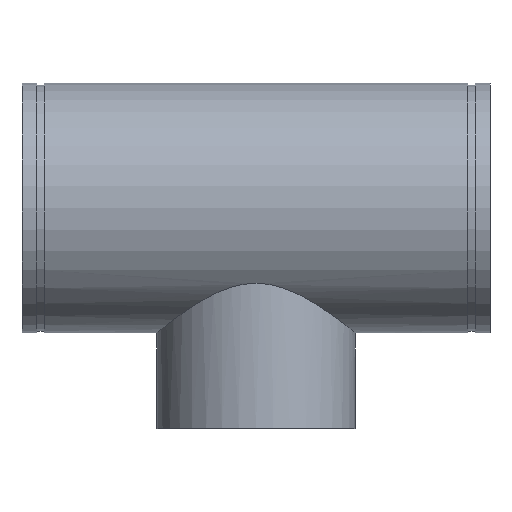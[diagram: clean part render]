
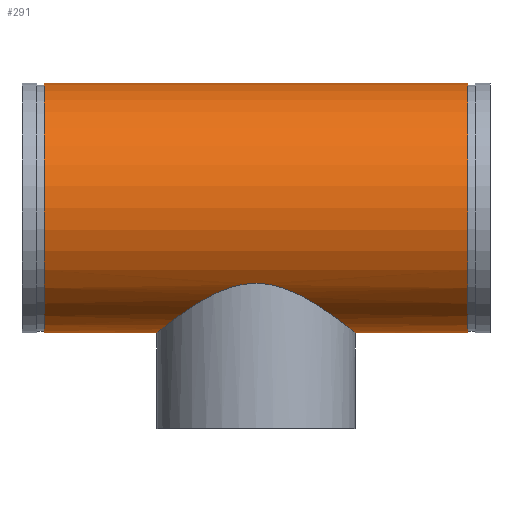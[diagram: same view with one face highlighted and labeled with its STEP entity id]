
A CAD part, top view. The second image highlights one B-rep face of the part: STEP entity #291.
In plain terms, the highlighted cylindrical face has radius 203.2 mm (diameter 406.4 mm), a full revolution.
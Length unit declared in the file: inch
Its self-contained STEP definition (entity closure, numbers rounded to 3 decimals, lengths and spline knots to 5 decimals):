
#45=B_SPLINE_CURVE_WITH_KNOTS('',3,(#511,#512,#513,#514,#515,#516,#517,
#518,#519,#520,#521,#522,#523,#524,#525,#526,#527,#528,#529,#530,#531,#532,
#533,#534,#535,#536,#537,#538,#539,#540,#541,#542,#543,#544,#545,#546,#547,
#548,#549,#550,#551,#552,#553,#554,#555,#556,#557,#558,#559,#560,#561,#562,
#563,#564,#565,#566,#567,#568,#569,#570,#571,#572),.UNSPECIFIED.,.F.,.F.,
(4,2,2,2,2,2,2,2,2,2,2,2,2,2,2,2,2,2,2,2,2,2,2,2,2,2,2,2,2,2,4),(0.,1.65821,
3.31641,6.63282,9.94923,13.26564,16.48143,
19.69721,22.91299,24.52089,26.12878,27.73667,
29.34456,32.56034,35.77613,38.99191,42.30832,
45.62473,48.94114,50.59935,52.25756,53.91576,
55.57397,58.89038,62.20679,65.5232,68.73898,
71.95477,75.17055,76.77844,78.38633),
 .UNSPECIFIED.);
#46=B_SPLINE_CURVE_WITH_KNOTS('',3,(#573,#574,#575,#576,#577,#578,#579,
#580,#581,#582,#583,#584,#585,#586,#587,#588,#589,#590,#591,#592,#593,#594),
 .UNSPECIFIED.,.F.,.F.,(4,2,2,2,2,2,2,2,2,2,4),(78.38633,79.99423,
81.60212,84.8179,88.03368,91.24947,94.56588,
97.88229,101.1987,102.85691,104.51511),
 .UNSPECIFIED.);
#51=LINE('',#508,#59);
#59=VECTOR('',#410,8.);
#67=CYLINDRICAL_SURFACE('',#338,8.);
#77=FACE_BOUND('',#108,.T.);
#88=FACE_OUTER_BOUND('',#107,.T.);
#107=EDGE_LOOP('',(#221,#222,#223,#224));
#108=EDGE_LOOP('',(#225,#226));
#121=CIRCLE('',#321,8.);
#132=CIRCLE('',#337,8.);
#141=VERTEX_POINT('',#476);
#152=VERTEX_POINT('',#505);
#153=VERTEX_POINT('',#509);
#154=VERTEX_POINT('',#510);
#165=EDGE_CURVE('',#141,#141,#121,.T.);
#178=EDGE_CURVE('',#152,#152,#132,.T.);
#179=EDGE_CURVE('',#152,#141,#51,.T.);
#180=EDGE_CURVE('',#153,#154,#45,.T.);
#181=EDGE_CURVE('',#154,#153,#46,.T.);
#221=ORIENTED_EDGE('',*,*,#178,.T.);
#222=ORIENTED_EDGE('',*,*,#179,.T.);
#223=ORIENTED_EDGE('',*,*,#165,.T.);
#224=ORIENTED_EDGE('',*,*,#179,.F.);
#225=ORIENTED_EDGE('',*,*,#180,.F.);
#226=ORIENTED_EDGE('',*,*,#181,.F.);
#291=ADVANCED_FACE('',(#88,#77),#67,.T.);
#321=AXIS2_PLACEMENT_3D('',#477,#372,#373);
#337=AXIS2_PLACEMENT_3D('',#506,#406,#407);
#338=AXIS2_PLACEMENT_3D('',#507,#408,#409);
#372=DIRECTION('center_axis',(-1.,0.,0.));
#373=DIRECTION('ref_axis',(0.,-1.,0.));
#406=DIRECTION('center_axis',(1.,0.,0.));
#407=DIRECTION('ref_axis',(0.,-1.,0.));
#408=DIRECTION('center_axis',(-1.,0.,0.));
#409=DIRECTION('ref_axis',(0.,-1.,0.));
#410=DIRECTION('',(1.,0.,0.));
#476=CARTESIAN_POINT('',(13.562,8.,0.));
#477=CARTESIAN_POINT('Origin',(13.562,0.,0.));
#505=CARTESIAN_POINT('',(-13.562,8.,0.));
#506=CARTESIAN_POINT('Origin',(-13.562,0.,0.));
#507=CARTESIAN_POINT('Origin',(15.,0.,0.));
#508=CARTESIAN_POINT('',(15.,8.,0.));
#509=CARTESIAN_POINT('',(0.,-4.83315,-6.375));
#510=CARTESIAN_POINT('',(-6.375,-8.,0.));
#511=CARTESIAN_POINT('Ctrl Pts',(0.,-4.83315,-6.375));
#512=CARTESIAN_POINT('Ctrl Pts',(0.21761,-4.83315,-6.375));
#513=CARTESIAN_POINT('Ctrl Pts',(0.43446,-4.84797,-6.36384));
#514=CARTESIAN_POINT('Ctrl Pts',(0.86389,-4.90514,-6.31988));
#515=CARTESIAN_POINT('Ctrl Pts',(1.07647,-4.94745,-6.28709));
#516=CARTESIAN_POINT('Ctrl Pts',(1.70425,-5.10884,-6.15782));
#517=CARTESIAN_POINT('Ctrl Pts',(2.1096,-5.2624,-6.03034));
#518=CARTESIAN_POINT('Ctrl Pts',(2.87917,-5.61534,-5.70314));
#519=CARTESIAN_POINT('Ctrl Pts',(3.24396,-5.81455,-5.5031));
#520=CARTESIAN_POINT('Ctrl Pts',(3.91973,-6.21691,-5.04413));
#521=CARTESIAN_POINT('Ctrl Pts',(4.23061,-6.42,-4.785));
#522=CARTESIAN_POINT('Ctrl Pts',(4.77659,-6.79239,-4.23902));
#523=CARTESIAN_POINT('Ctrl Pts',(5.03366,-6.97659,-3.93317));
#524=CARTESIAN_POINT('Ctrl Pts',(5.49455,-7.31609,-3.25844));
#525=CARTESIAN_POINT('Ctrl Pts',(5.69838,-7.47126,-2.88951));
#526=CARTESIAN_POINT('Ctrl Pts',(6.03121,-7.72811,-2.1084));
#527=CARTESIAN_POINT('Ctrl Pts',(6.16049,-7.82996,-1.69531));
#528=CARTESIAN_POINT('Ctrl Pts',(6.28944,-7.93195,-1.06292));
#529=CARTESIAN_POINT('Ctrl Pts',(6.3217,-7.95758,-0.85002));
#530=CARTESIAN_POINT('Ctrl Pts',(6.36448,-7.99161,-0.42406));
#531=CARTESIAN_POINT('Ctrl Pts',(6.375,-8.,-0.21101));
#532=CARTESIAN_POINT('Ctrl Pts',(6.375,-8.,0.21101));
#533=CARTESIAN_POINT('Ctrl Pts',(6.36448,-7.99161,0.42406));
#534=CARTESIAN_POINT('Ctrl Pts',(6.3217,-7.95758,0.85002));
#535=CARTESIAN_POINT('Ctrl Pts',(6.28944,-7.93195,1.06292));
#536=CARTESIAN_POINT('Ctrl Pts',(6.16049,-7.82996,1.69531));
#537=CARTESIAN_POINT('Ctrl Pts',(6.03121,-7.72811,2.1084));
#538=CARTESIAN_POINT('Ctrl Pts',(5.69838,-7.47126,2.88951));
#539=CARTESIAN_POINT('Ctrl Pts',(5.49455,-7.31609,3.25844));
#540=CARTESIAN_POINT('Ctrl Pts',(5.03366,-6.97659,3.93317));
#541=CARTESIAN_POINT('Ctrl Pts',(4.77659,-6.79239,4.23902));
#542=CARTESIAN_POINT('Ctrl Pts',(4.23061,-6.42,4.785));
#543=CARTESIAN_POINT('Ctrl Pts',(3.91973,-6.21691,5.04413));
#544=CARTESIAN_POINT('Ctrl Pts',(3.24396,-5.81455,5.5031));
#545=CARTESIAN_POINT('Ctrl Pts',(2.87917,-5.61534,5.70314));
#546=CARTESIAN_POINT('Ctrl Pts',(2.1096,-5.2624,6.03034));
#547=CARTESIAN_POINT('Ctrl Pts',(1.70425,-5.10884,6.15782));
#548=CARTESIAN_POINT('Ctrl Pts',(1.07647,-4.94745,6.28709));
#549=CARTESIAN_POINT('Ctrl Pts',(0.86389,-4.90514,6.31988));
#550=CARTESIAN_POINT('Ctrl Pts',(0.43446,-4.84797,6.36384));
#551=CARTESIAN_POINT('Ctrl Pts',(0.21761,-4.83315,6.375));
#552=CARTESIAN_POINT('Ctrl Pts',(-0.21761,-4.83315,6.375));
#553=CARTESIAN_POINT('Ctrl Pts',(-0.43446,-4.84797,6.36384));
#554=CARTESIAN_POINT('Ctrl Pts',(-0.86389,-4.90514,6.31988));
#555=CARTESIAN_POINT('Ctrl Pts',(-1.07647,-4.94745,6.28709));
#556=CARTESIAN_POINT('Ctrl Pts',(-1.70425,-5.10884,6.15782));
#557=CARTESIAN_POINT('Ctrl Pts',(-2.1096,-5.2624,6.03034));
#558=CARTESIAN_POINT('Ctrl Pts',(-2.87917,-5.61534,5.70314));
#559=CARTESIAN_POINT('Ctrl Pts',(-3.24396,-5.81455,5.5031));
#560=CARTESIAN_POINT('Ctrl Pts',(-3.91973,-6.21691,5.04413));
#561=CARTESIAN_POINT('Ctrl Pts',(-4.23061,-6.42,4.785));
#562=CARTESIAN_POINT('Ctrl Pts',(-4.77659,-6.79239,4.23902));
#563=CARTESIAN_POINT('Ctrl Pts',(-5.03366,-6.97659,3.93317));
#564=CARTESIAN_POINT('Ctrl Pts',(-5.49455,-7.31609,3.25844));
#565=CARTESIAN_POINT('Ctrl Pts',(-5.69838,-7.47126,2.88951));
#566=CARTESIAN_POINT('Ctrl Pts',(-6.03121,-7.72811,2.1084));
#567=CARTESIAN_POINT('Ctrl Pts',(-6.16049,-7.82996,1.69531));
#568=CARTESIAN_POINT('Ctrl Pts',(-6.28944,-7.93195,1.06292));
#569=CARTESIAN_POINT('Ctrl Pts',(-6.3217,-7.95758,0.85002));
#570=CARTESIAN_POINT('Ctrl Pts',(-6.36448,-7.99161,0.42406));
#571=CARTESIAN_POINT('Ctrl Pts',(-6.375,-8.,0.21101));
#572=CARTESIAN_POINT('Ctrl Pts',(-6.375,-8.,0.));
#573=CARTESIAN_POINT('Ctrl Pts',(-6.375,-8.,0.));
#574=CARTESIAN_POINT('Ctrl Pts',(-6.375,-8.,-0.21101));
#575=CARTESIAN_POINT('Ctrl Pts',(-6.36448,-7.99161,-0.42406));
#576=CARTESIAN_POINT('Ctrl Pts',(-6.3217,-7.95758,-0.85002));
#577=CARTESIAN_POINT('Ctrl Pts',(-6.28944,-7.93195,-1.06292));
#578=CARTESIAN_POINT('Ctrl Pts',(-6.16049,-7.82996,-1.69531));
#579=CARTESIAN_POINT('Ctrl Pts',(-6.03121,-7.72811,-2.1084));
#580=CARTESIAN_POINT('Ctrl Pts',(-5.69838,-7.47126,-2.88951));
#581=CARTESIAN_POINT('Ctrl Pts',(-5.49455,-7.31609,-3.25844));
#582=CARTESIAN_POINT('Ctrl Pts',(-5.03366,-6.97659,-3.93317));
#583=CARTESIAN_POINT('Ctrl Pts',(-4.77659,-6.79239,-4.23902));
#584=CARTESIAN_POINT('Ctrl Pts',(-4.23061,-6.42,-4.785));
#585=CARTESIAN_POINT('Ctrl Pts',(-3.91973,-6.21691,-5.04413));
#586=CARTESIAN_POINT('Ctrl Pts',(-3.24396,-5.81455,-5.5031));
#587=CARTESIAN_POINT('Ctrl Pts',(-2.87917,-5.61534,-5.70314));
#588=CARTESIAN_POINT('Ctrl Pts',(-2.1096,-5.2624,-6.03034));
#589=CARTESIAN_POINT('Ctrl Pts',(-1.70425,-5.10884,-6.15782));
#590=CARTESIAN_POINT('Ctrl Pts',(-1.07647,-4.94745,-6.28709));
#591=CARTESIAN_POINT('Ctrl Pts',(-0.86389,-4.90514,-6.31988));
#592=CARTESIAN_POINT('Ctrl Pts',(-0.43446,-4.84797,-6.36384));
#593=CARTESIAN_POINT('Ctrl Pts',(-0.21761,-4.83315,-6.375));
#594=CARTESIAN_POINT('Ctrl Pts',(0.,-4.83315,-6.375));
